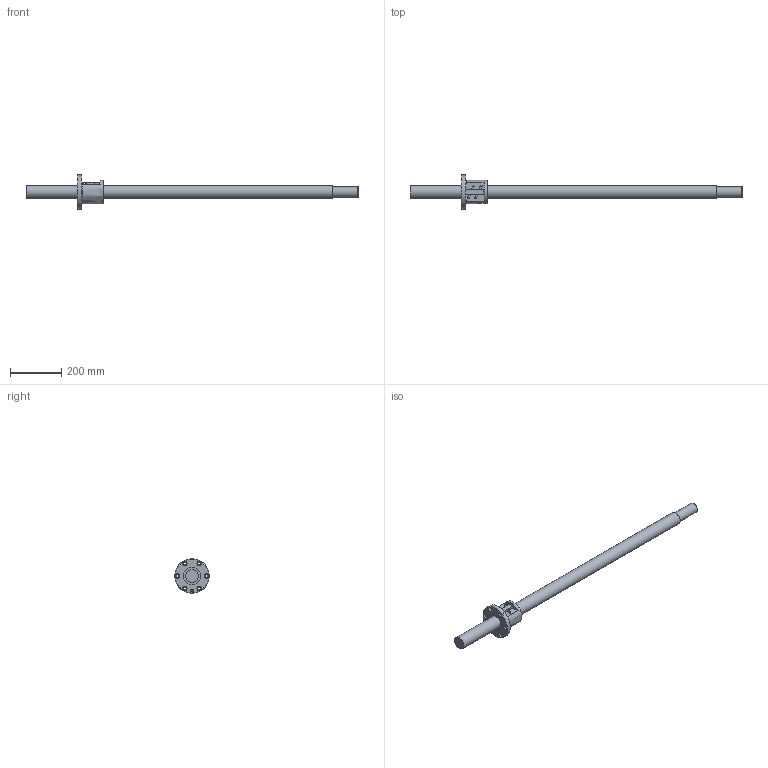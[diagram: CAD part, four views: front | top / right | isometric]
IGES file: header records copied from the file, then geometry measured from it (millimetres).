
Start section: Data from Parasolid IGES Translator 26.0.171, Copyright(c) 2006 Siemens PLM Software. All Rights Reserved.
Global section: file name: BNF5010-5RRG1+1300LC5A(00).igs; native system: By Siemens PLM Incorporated; preprocessor: XPlus GENERIC/IGES 26.0.171; author: Noname; organization: Noname; date: 20240715.075018; units: millimetre
Bounding box: 1300 x 135 x 135 mm (x, y, z)
Surface area: 287236.7 mm2 (no closed solid volume)
Topology: 0 solids, 0 shells, 71 faces, 356 edges, 319 vertices
Faces by surface type: revolution 47, extrusion 24
